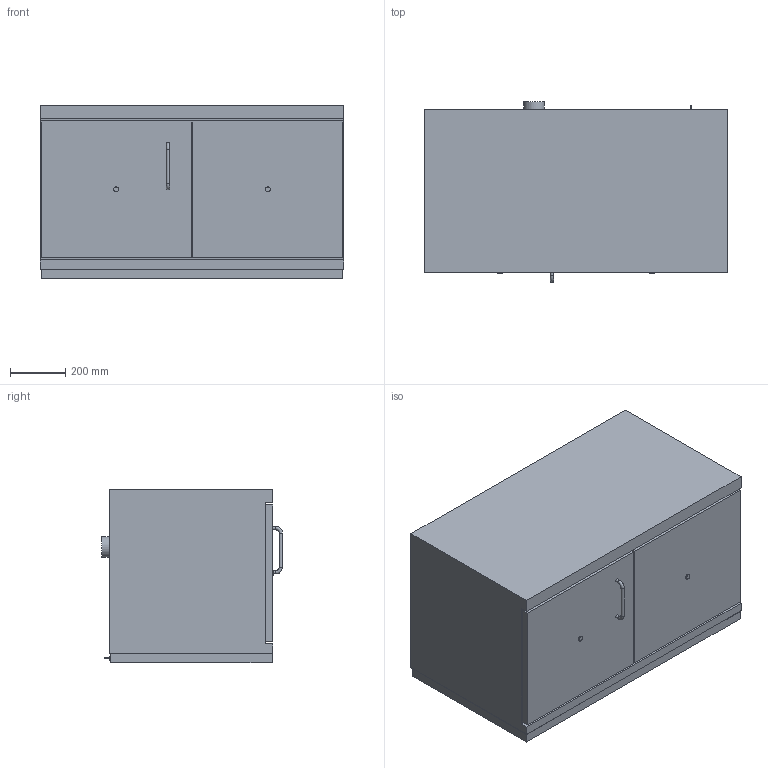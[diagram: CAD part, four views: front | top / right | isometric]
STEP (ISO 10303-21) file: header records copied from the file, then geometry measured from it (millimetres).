
FILE_DESCRIPTION(/* description */ ('Unknown'),/* implementation_level */ '2;1');
FILE_NAME(/* name */ 'COOL UTS ergo LT_D00107637',/* time_stamp */ '2020-09-03T10:57:41+02:00',/* author */ ('Unknown'),/* organization */ ('Unknown'),/* preprocessor_version */ 'ST-DEVELOPER v16.7',/* originating_system */ 'Solid Edge',/* authorisation */ 'Unknown');
FILE_SCHEMA (('AUTOMOTIVE_DESIGN {1 0 10303 214 3 1 1}'));
Length unit declared in the file: millimetre
Products named in the file (1): COOL UTS ergo LT_D00107637
Bounding box: 1100 x 656 x 631 mm (x, y, z)
Volume: 411003136.2 mm3; surface area: 3598932.8 mm2
Topology: 1 solids, 1 shells, 42 faces, 95 edges, 64 vertices
Faces by surface type: plane 30, cylinder 9, torus 2, bspline 1
Full cylindrical faces by diameter (mm): 5 x1, 12 x3, 13.6 x1, 18 x2, 75 x2
Entity records: 1416 total; most frequent: CARTESIAN_POINT 212, DIRECTION 178, ORIENTED_EDGE 156, EDGE_CURVE 78, EDGE_LOOP 64, FACE_BOUND 64, LINE 60, VECTOR 60
